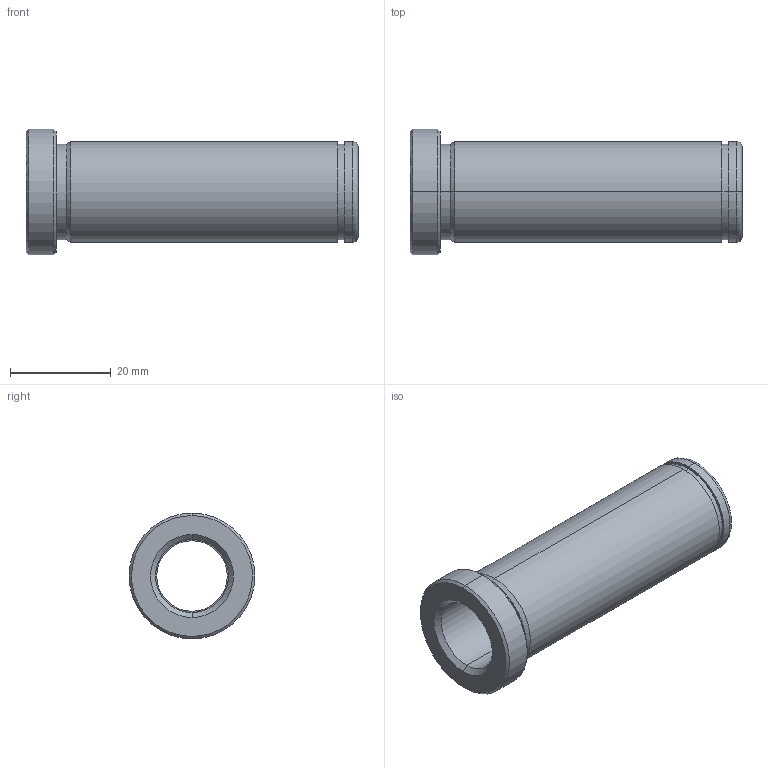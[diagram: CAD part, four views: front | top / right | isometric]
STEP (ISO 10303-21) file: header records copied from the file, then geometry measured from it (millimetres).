
FILE_DESCRIPTION(('CATIA V5 STEP Exchange'),'2;1');
FILE_NAME('C:\Users\Utente\Desktop\IO LAVORO\3D X SITO CF\X SITO\PLASTICA\553\553-14X66.stp','2021-05-21T18:23:19+00:00',('none'),('none'),'CATIA Version 5 Release 20 GA (IN-10)','CATIA V5 STEP AP203','none');
FILE_SCHEMA(('CONFIG_CONTROL_DESIGN'));
Length unit declared in the file: millimetre
Products named in the file (1): 553-14x66
Bounding box: 66 x 25 x 25 mm (x, y, z)
Volume: 11217.9 mm3; surface area: 7810.9 mm2
Topology: 1 solids, 1 shells, 32 faces, 102 edges, 76 vertices
Faces by surface type: cylinder 14, cone 8, plane 6, torus 4
Entity records: 1334 total; most frequent: CARTESIAN_POINT 389, ORIENTED_EDGE 204, DIRECTION 152, EDGE_CURVE 102, AXIS2_PLACEMENT_3D 99, VERTEX_POINT 76, CIRCLE 66, EDGE_LOOP 38
